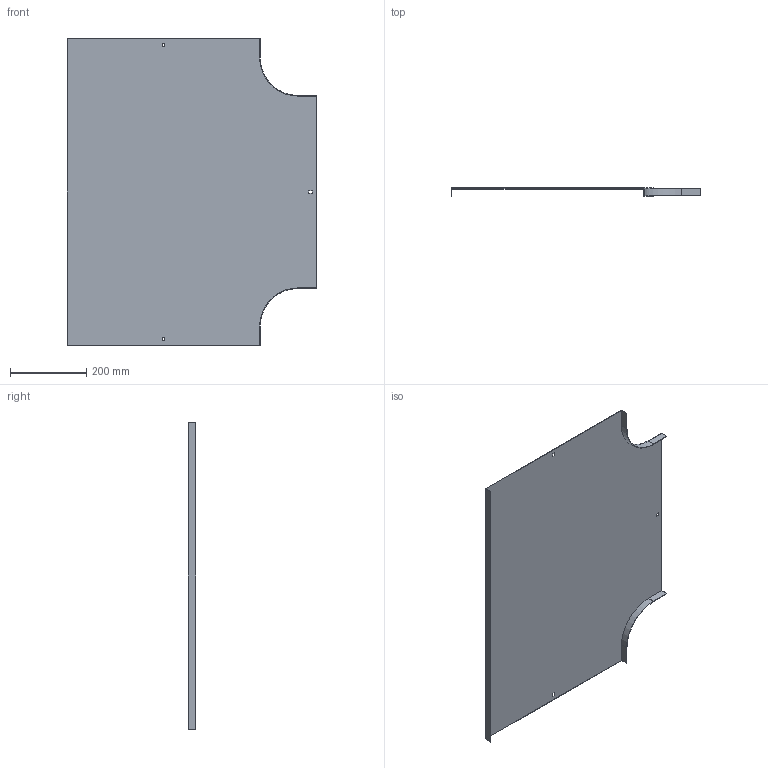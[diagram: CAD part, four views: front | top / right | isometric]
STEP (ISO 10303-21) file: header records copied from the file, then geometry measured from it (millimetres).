
FILE_DESCRIPTION (( 'STEP AP214' ), '1' );
FILE_NAME ('15N1R500.step', '2025-02-21T09:52:16', ( '' ), ( '' ), 'SwSTEP 2.0', 'SolidWorks 2023', '' );
FILE_SCHEMA (( 'AUTOMOTIVE_DESIGN' ));
Length unit declared in the file: millimetre
Products named in the file (1): 15N1R500
Bounding box: 655.5 x 20 x 804 mm (x, y, z)
Volume: 766872.9 mm3; surface area: 1027054.9 mm2
Topology: 1 solids, 1 shells, 34 faces, 96 edges, 64 vertices
Faces by surface type: plane 30, cylinder 4
Entity records: 1123 total; most frequent: CARTESIAN_POINT 195, ORIENTED_EDGE 192, DIRECTION 174, EDGE_CURVE 96, VECTOR 88, LINE 88, VERTEX_POINT 64, AXIS2_PLACEMENT_3D 43
